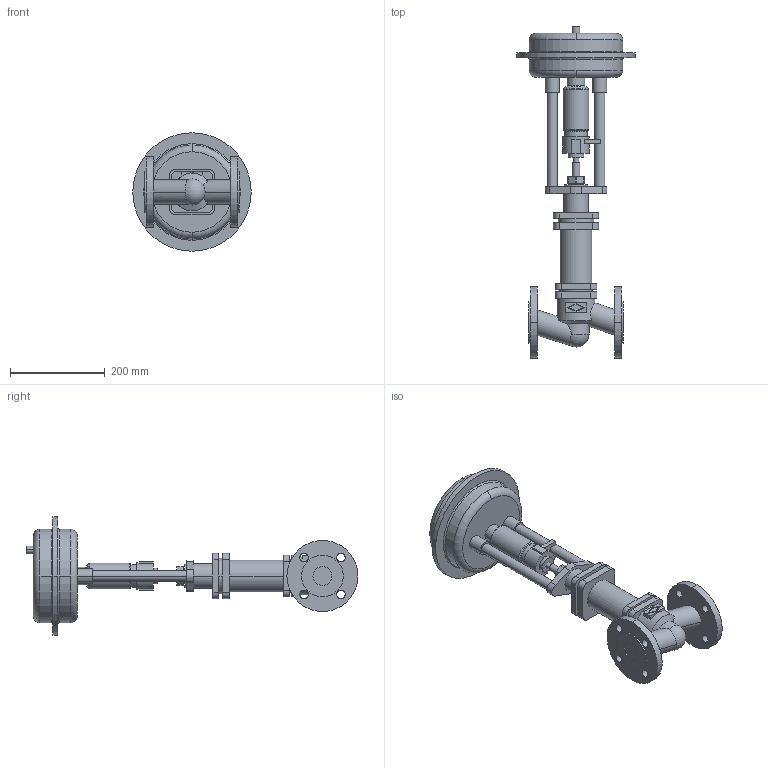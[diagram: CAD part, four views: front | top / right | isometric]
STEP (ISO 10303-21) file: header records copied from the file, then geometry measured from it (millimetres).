
FILE_DESCRIPTION( ( '' ), '1' );
FILE_NAME( 'F:/DE-SHS/TB/OR/04-Sonstiges/daten/files_3d/440-441/c000005727.stp', '2015-05-22T08:01:03', ( '' ), ( '' ), ' ', ' ', ' ' );
FILE_SCHEMA( ( 'CONFIG_CONTROL_DESIGN' ) );
Length unit declared in the file: millimetre
Products named in the file (2): 1; 2
Bounding box: 250 x 701 x 250 mm (x, y, z)
Volume: 5772563.3 mm3; surface area: 445565 mm2
Topology: 2 solids, 2 shells, 220 faces, 557 edges, 372 vertices
Faces by surface type: cylinder 104, plane 93, torus 16, cone 6, sphere 1
Entity records: 7322 total; most frequent: CARTESIAN_POINT 1633, DIRECTION 1264, ORIENTED_EDGE 1110, EDGE_CURVE 555, AXIS2_PLACEMENT_3D 501, VERTEX_POINT 372, CIRCLE 275, EDGE_LOOP 269
